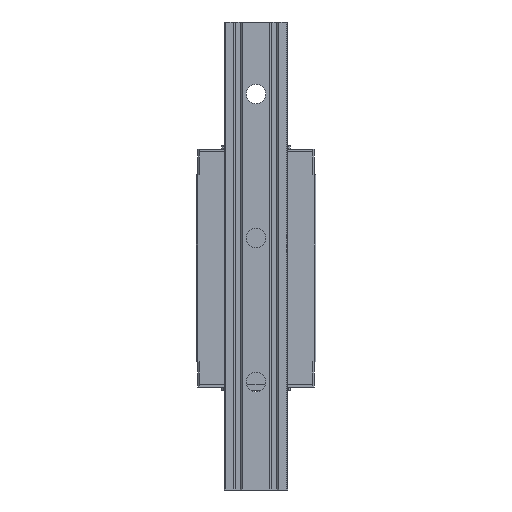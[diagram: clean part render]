
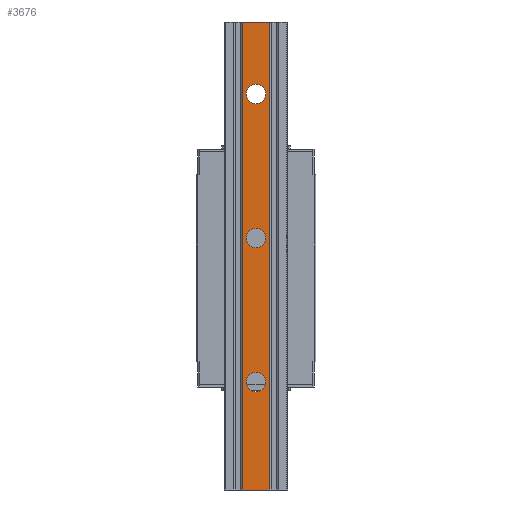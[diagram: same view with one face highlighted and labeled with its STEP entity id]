
A CAD part, front view. The second image highlights one B-rep face of the part: STEP entity #3676.
In plain terms, the highlighted planar face has unit normal (0, -1, 0).
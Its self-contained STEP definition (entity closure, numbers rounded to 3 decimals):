
#103 = CARTESIAN_POINT ( 'NONE',  ( 11.357, 0., 0. ) ) ;
#388 = EDGE_CURVE ( 'NONE', #7976, #13026, #7451, .T. ) ;
#401 = VERTEX_POINT ( 'NONE', #9260 ) ;
#504 = FACE_BOUND ( 'NONE', #7338, .T. ) ;
#534 = CARTESIAN_POINT ( 'NONE',  ( 0., 0., -188. ) ) ;
#1070 = ORIENTED_EDGE ( 'NONE', *, *, #10323, .T. ) ;
#1089 = CARTESIAN_POINT ( 'NONE',  ( -26.5, 0., -390. ) ) ;
#1128 = EDGE_CURVE ( 'NONE', #10973, #4592, #11066, .T. ) ;
#1457 = ORIENTED_EDGE ( 'NONE', *, *, #1128, .T. ) ;
#1468 = DIRECTION ( 'NONE',  ( 0., 0., 1. ) ) ;
#1472 = ORIENTED_EDGE ( 'NONE', *, *, #7216, .T. ) ;
#1507 = CARTESIAN_POINT ( 'NONE',  ( -11.357, 0., -2828.884 ) ) ;
#1517 = VECTOR ( 'NONE', #6594, 1000. ) ;
#1661 = CARTESIAN_POINT ( 'NONE',  ( 0., 0., -180. ) ) ;
#1716 = CARTESIAN_POINT ( 'NONE',  ( 0., 0., -172. ) ) ;
#1719 = VECTOR ( 'NONE', #7899, 1000. ) ;
#1760 = ORIENTED_EDGE ( 'NONE', *, *, #4383, .T. ) ;
#1802 = DIRECTION ( 'NONE',  ( 0., 0., 1. ) ) ;
#2193 = DIRECTION ( 'NONE',  ( 0., 0., 1. ) ) ;
#2382 = VECTOR ( 'NONE', #5135, 1000. ) ;
#2894 = AXIS2_PLACEMENT_3D ( 'NONE', #6701, #12686, #3429 ) ;
#3203 = CARTESIAN_POINT ( 'NONE',  ( 0., 0., -60. ) ) ;
#3265 = VERTEX_POINT ( 'NONE', #12215 ) ;
#3429 = DIRECTION ( 'NONE',  ( 0., 0., 1. ) ) ;
#3676 = ADVANCED_FACE ( 'NONE', ( #11600, #504, #8506, #3705 ), #7716, .T. ) ;
#3705 = FACE_OUTER_BOUND ( 'NONE', #7944, .T. ) ;
#3714 = EDGE_LOOP ( 'NONE', ( #7478, #10503 ) ) ;
#3742 = DIRECTION ( 'NONE',  ( 0., 1., 0. ) ) ;
#3788 = LINE ( 'NONE', #1089, #2382 ) ;
#3883 = CARTESIAN_POINT ( 'NONE',  ( 26.5, 0., 0. ) ) ;
#4379 = VERTEX_POINT ( 'NONE', #5782 ) ;
#4383 = EDGE_CURVE ( 'NONE', #8102, #6405, #12870, .T. ) ;
#4592 = VERTEX_POINT ( 'NONE', #534 ) ;
#4639 = LINE ( 'NONE', #10632, #1517 ) ;
#4663 = CIRCLE ( 'NONE', #6127, 8. ) ;
#4785 = AXIS2_PLACEMENT_3D ( 'NONE', #3203, #7198, #2193 ) ;
#4824 = LINE ( 'NONE', #1507, #10889 ) ;
#5061 = CARTESIAN_POINT ( 'NONE',  ( 11.357, 0., -390. ) ) ;
#5135 = DIRECTION ( 'NONE',  ( 1., 0., 0. ) ) ;
#5145 = CARTESIAN_POINT ( 'NONE',  ( 0., 0., -300. ) ) ;
#5175 = CIRCLE ( 'NONE', #2894, 8. ) ;
#5283 = ORIENTED_EDGE ( 'NONE', *, *, #6220, .T. ) ;
#5308 = VERTEX_POINT ( 'NONE', #5061 ) ;
#5459 = AXIS2_PLACEMENT_3D ( 'NONE', #7289, #10511, #1468 ) ;
#5604 = DIRECTION ( 'NONE',  ( 0., -1., 0. ) ) ;
#5782 = CARTESIAN_POINT ( 'NONE',  ( 0., 0., -68. ) ) ;
#5886 = CARTESIAN_POINT ( 'NONE',  ( -11.357, 0., 0. ) ) ;
#6127 = AXIS2_PLACEMENT_3D ( 'NONE', #8399, #6477, #9545 ) ;
#6131 = DIRECTION ( 'NONE',  ( 0., 0., 1. ) ) ;
#6220 = EDGE_CURVE ( 'NONE', #5308, #8102, #4639, .T. ) ;
#6316 = EDGE_CURVE ( 'NONE', #3265, #5308, #3788, .T. ) ;
#6405 = VERTEX_POINT ( 'NONE', #5886 ) ;
#6477 = DIRECTION ( 'NONE',  ( 0., 1., 0. ) ) ;
#6594 = DIRECTION ( 'NONE',  ( 0., 0., 1. ) ) ;
#6701 = CARTESIAN_POINT ( 'NONE',  ( 0., 0., -180. ) ) ;
#6904 = CARTESIAN_POINT ( 'NONE',  ( 0., 0., -308. ) ) ;
#6940 = CIRCLE ( 'NONE', #5459, 8. ) ;
#7051 = AXIS2_PLACEMENT_3D ( 'NONE', #5145, #8189, #6131 ) ;
#7198 = DIRECTION ( 'NONE',  ( 0., 1., 0. ) ) ;
#7216 = EDGE_CURVE ( 'NONE', #401, #4379, #4663, .T. ) ;
#7264 = CARTESIAN_POINT ( 'NONE',  ( 0., 0., -292. ) ) ;
#7289 = CARTESIAN_POINT ( 'NONE',  ( 0., 0., -300. ) ) ;
#7338 = EDGE_LOOP ( 'NONE', ( #1457, #11171 ) ) ;
#7451 = CIRCLE ( 'NONE', #7051, 8. ) ;
#7478 = ORIENTED_EDGE ( 'NONE', *, *, #11554, .T. ) ;
#7716 = PLANE ( 'NONE',  #11963 ) ;
#7899 = DIRECTION ( 'NONE',  ( -1., 0., 0. ) ) ;
#7944 = EDGE_LOOP ( 'NONE', ( #9453, #9085, #5283, #1760 ) ) ;
#7976 = VERTEX_POINT ( 'NONE', #6904 ) ;
#8102 = VERTEX_POINT ( 'NONE', #103 ) ;
#8189 = DIRECTION ( 'NONE',  ( 0., 1., 0. ) ) ;
#8399 = CARTESIAN_POINT ( 'NONE',  ( 0., 0., -60. ) ) ;
#8506 = FACE_BOUND ( 'NONE', #3714, .T. ) ;
#8791 = CIRCLE ( 'NONE', #4785, 8. ) ;
#8920 = DIRECTION ( 'NONE',  ( 0., 0., -1. ) ) ;
#9085 = ORIENTED_EDGE ( 'NONE', *, *, #6316, .T. ) ;
#9254 = EDGE_CURVE ( 'NONE', #6405, #3265, #4824, .T. ) ;
#9260 = CARTESIAN_POINT ( 'NONE',  ( 0., 0., -52. ) ) ;
#9453 = ORIENTED_EDGE ( 'NONE', *, *, #9254, .T. ) ;
#9545 = DIRECTION ( 'NONE',  ( 0., 0., 1. ) ) ;
#9983 = EDGE_CURVE ( 'NONE', #4592, #10973, #5175, .T. ) ;
#10323 = EDGE_CURVE ( 'NONE', #4379, #401, #8791, .T. ) ;
#10503 = ORIENTED_EDGE ( 'NONE', *, *, #388, .T. ) ;
#10511 = DIRECTION ( 'NONE',  ( 0., 1., 0. ) ) ;
#10632 = CARTESIAN_POINT ( 'NONE',  ( 11.357, 0., -2760. ) ) ;
#10744 = DIRECTION ( 'NONE',  ( 0., 0., -1. ) ) ;
#10889 = VECTOR ( 'NONE', #8920, 1000. ) ;
#10973 = VERTEX_POINT ( 'NONE', #1716 ) ;
#11066 = CIRCLE ( 'NONE', #12931, 8. ) ;
#11171 = ORIENTED_EDGE ( 'NONE', *, *, #9983, .T. ) ;
#11531 = CARTESIAN_POINT ( 'NONE',  ( -26.5, 0., -2828.884 ) ) ;
#11554 = EDGE_CURVE ( 'NONE', #13026, #7976, #6940, .T. ) ;
#11600 = FACE_BOUND ( 'NONE', #12506, .T. ) ;
#11963 = AXIS2_PLACEMENT_3D ( 'NONE', #11531, #5604, #10744 ) ;
#12215 = CARTESIAN_POINT ( 'NONE',  ( -11.357, 0., -390. ) ) ;
#12506 = EDGE_LOOP ( 'NONE', ( #1472, #1070 ) ) ;
#12686 = DIRECTION ( 'NONE',  ( 0., 1., 0. ) ) ;
#12870 = LINE ( 'NONE', #3883, #1719 ) ;
#12931 = AXIS2_PLACEMENT_3D ( 'NONE', #1661, #3742, #1802 ) ;
#13026 = VERTEX_POINT ( 'NONE', #7264 ) ;
